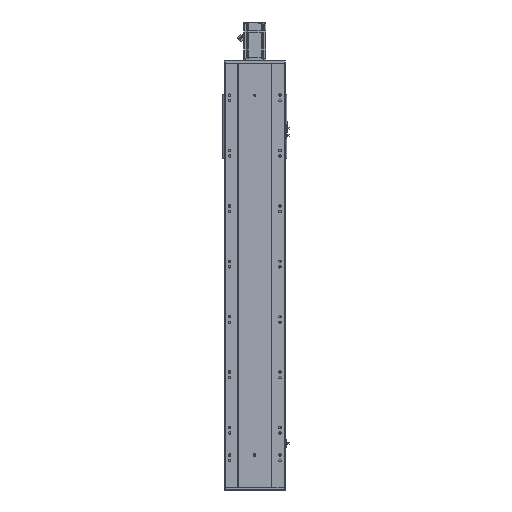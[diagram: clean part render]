
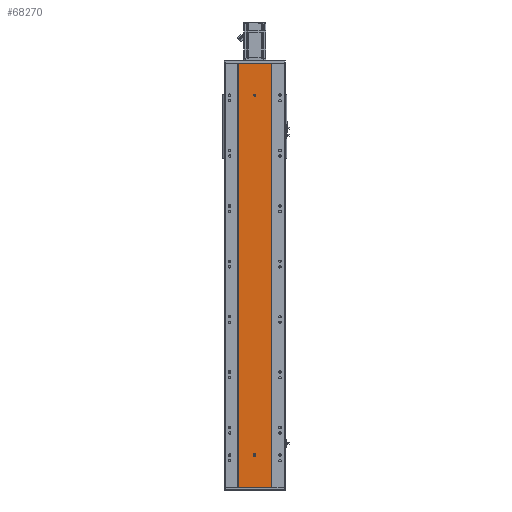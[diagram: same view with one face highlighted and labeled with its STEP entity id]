
A CAD part, front view. The second image highlights one B-rep face of the part: STEP entity #68270.
In plain terms, the highlighted planar face has unit normal (0, -1, 0).
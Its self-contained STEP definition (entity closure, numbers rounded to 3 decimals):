
#1068 = EDGE_CURVE ( 'NONE', #60891, #67208, #69013, .T. ) ;
#1090 = ORIENTED_EDGE ( 'NONE', *, *, #65843, .F. ) ;
#1938 = CARTESIAN_POINT ( 'NONE',  ( 0., 0., 1414. ) ) ;
#2740 = DIRECTION ( 'NONE',  ( 1., 0., 0. ) ) ;
#3267 = DIRECTION ( 'NONE',  ( 0., 0., -1. ) ) ;
#3515 = CARTESIAN_POINT ( 'NONE',  ( -60., 0., 0. ) ) ;
#3520 = DIRECTION ( 'NONE',  ( 0., -1., 0. ) ) ;
#3709 = DIRECTION ( 'NONE',  ( 0., 0., -1. ) ) ;
#4492 = CARTESIAN_POINT ( 'NONE',  ( 4., 0., 119.5 ) ) ;
#4496 = LINE ( 'NONE', #25217, #60192 ) ;
#5769 = LINE ( 'NONE', #69742, #65095 ) ;
#6577 = FACE_BOUND ( 'NONE', #44715, .T. ) ;
#6674 = ORIENTED_EDGE ( 'NONE', *, *, #23832, .F. ) ;
#6789 = CIRCLE ( 'NONE', #48183, 4. ) ;
#7080 = VECTOR ( 'NONE', #14265, 1000. ) ;
#8260 = CARTESIAN_POINT ( 'NONE',  ( -60., 0., 1532. ) ) ;
#8543 = CARTESIAN_POINT ( 'NONE',  ( 0., 0., 116.5 ) ) ;
#9874 = LINE ( 'NONE', #67673, #18845 ) ;
#12336 = CARTESIAN_POINT ( 'NONE',  ( -60., 0., 0. ) ) ;
#12761 = VERTEX_POINT ( 'NONE', #13666 ) ;
#12876 = VERTEX_POINT ( 'NONE', #16606 ) ;
#13434 = CARTESIAN_POINT ( 'NONE',  ( 0., 0., 112.5 ) ) ;
#13552 = CARTESIAN_POINT ( 'NONE',  ( 60., 0., 0. ) ) ;
#13666 = CARTESIAN_POINT ( 'NONE',  ( 4., 0., 116.5 ) ) ;
#14110 = VECTOR ( 'NONE', #34453, 1000. ) ;
#14265 = DIRECTION ( 'NONE',  ( 0., 0., -1. ) ) ;
#14728 = DIRECTION ( 'NONE',  ( 0., -1., 0. ) ) ;
#15159 = CARTESIAN_POINT ( 'NONE',  ( 60., 0., 1532. ) ) ;
#15572 = FACE_BOUND ( 'NONE', #57445, .T. ) ;
#16371 = ORIENTED_EDGE ( 'NONE', *, *, #46055, .F. ) ;
#16606 = CARTESIAN_POINT ( 'NONE',  ( -4., 0., 119.5 ) ) ;
#17415 = CARTESIAN_POINT ( 'NONE',  ( -60., 0., 1532. ) ) ;
#18179 = ORIENTED_EDGE ( 'NONE', *, *, #31088, .F. ) ;
#18251 = LINE ( 'NONE', #8260, #20945 ) ;
#18845 = VECTOR ( 'NONE', #56109, 1000. ) ;
#20945 = VECTOR ( 'NONE', #2740, 1000. ) ;
#21543 = EDGE_CURVE ( 'NONE', #61827, #67721, #18251, .T. ) ;
#22821 = DIRECTION ( 'NONE',  ( 0., 1., 0. ) ) ;
#23362 = ORIENTED_EDGE ( 'NONE', *, *, #45087, .F. ) ;
#23654 = ORIENTED_EDGE ( 'NONE', *, *, #61059, .F. ) ;
#23832 = EDGE_CURVE ( 'NONE', #12761, #35246, #9874, .T. ) ;
#24718 = VERTEX_POINT ( 'NONE', #1938 ) ;
#25217 = CARTESIAN_POINT ( 'NONE',  ( 60., 0., 1532. ) ) ;
#25590 = ORIENTED_EDGE ( 'NONE', *, *, #28388, .T. ) ;
#26174 = AXIS2_PLACEMENT_3D ( 'NONE', #43220, #3520, #3267 ) ;
#26281 = CARTESIAN_POINT ( 'NONE',  ( 0., 0., 1418. ) ) ;
#27392 = ORIENTED_EDGE ( 'NONE', *, *, #37205, .F. ) ;
#28388 = EDGE_CURVE ( 'NONE', #61827, #60891, #5769, .T. ) ;
#30090 = ORIENTED_EDGE ( 'NONE', *, *, #31684, .F. ) ;
#30366 = AXIS2_PLACEMENT_3D ( 'NONE', #8543, #37178, #36431 ) ;
#31088 = EDGE_CURVE ( 'NONE', #73415, #67602, #56331, .T. ) ;
#31684 = EDGE_CURVE ( 'NONE', #24718, #56460, #6789, .T. ) ;
#32624 = CARTESIAN_POINT ( 'NONE',  ( 0., 0., 119.5 ) ) ;
#32652 = DIRECTION ( 'NONE',  ( 0., 0., 1. ) ) ;
#34019 = AXIS2_PLACEMENT_3D ( 'NONE', #61543, #22821, #32652 ) ;
#34453 = DIRECTION ( 'NONE',  ( 1., 0., 0. ) ) ;
#35246 = VERTEX_POINT ( 'NONE', #4492 ) ;
#35710 = EDGE_LOOP ( 'NONE', ( #53471, #23362, #48557, #25590 ) ) ;
#36370 = CARTESIAN_POINT ( 'NONE',  ( -4., 0., 116.5 ) ) ;
#36431 = DIRECTION ( 'NONE',  ( 0., 0., -1. ) ) ;
#37178 = DIRECTION ( 'NONE',  ( 0., -1., 0. ) ) ;
#37205 = EDGE_CURVE ( 'NONE', #56460, #24718, #73618, .T. ) ;
#38445 = DIRECTION ( 'NONE',  ( 0., 0., -1. ) ) ;
#39810 = FACE_OUTER_BOUND ( 'NONE', #35710, .T. ) ;
#40328 = DIRECTION ( 'NONE',  ( 0., 0., -1. ) ) ;
#43220 = CARTESIAN_POINT ( 'NONE',  ( 0., 0., 116.5 ) ) ;
#44715 = EDGE_LOOP ( 'NONE', ( #30090, #27392 ) ) ;
#45087 = EDGE_CURVE ( 'NONE', #67721, #67208, #4496, .T. ) ;
#45707 = CARTESIAN_POINT ( 'NONE',  ( 0., 0., 1422. ) ) ;
#46055 = EDGE_CURVE ( 'NONE', #12876, #73415, #61857, .T. ) ;
#48183 = AXIS2_PLACEMENT_3D ( 'NONE', #26281, #14728, #3709 ) ;
#48557 = ORIENTED_EDGE ( 'NONE', *, *, #21543, .F. ) ;
#51513 = AXIS2_PLACEMENT_3D ( 'NONE', #32624, #72894, #38445 ) ;
#51860 = AXIS2_PLACEMENT_3D ( 'NONE', #73784, #62407, #62156 ) ;
#53471 = ORIENTED_EDGE ( 'NONE', *, *, #1068, .T. ) ;
#54390 = DIRECTION ( 'NONE',  ( 0., 0., -1. ) ) ;
#56109 = DIRECTION ( 'NONE',  ( 0., 0., 1. ) ) ;
#56331 = CIRCLE ( 'NONE', #30366, 4. ) ;
#56460 = VERTEX_POINT ( 'NONE', #45707 ) ;
#57259 = PLANE ( 'NONE',  #34019 ) ;
#57445 = EDGE_LOOP ( 'NONE', ( #6674, #1090, #18179, #16371, #23654 ) ) ;
#59088 = CIRCLE ( 'NONE', #26174, 4. ) ;
#60192 = VECTOR ( 'NONE', #54390, 1000. ) ;
#60891 = VERTEX_POINT ( 'NONE', #3515 ) ;
#61059 = EDGE_CURVE ( 'NONE', #35246, #12876, #63279, .T. ) ;
#61543 = CARTESIAN_POINT ( 'NONE',  ( -60., 0., 1532. ) ) ;
#61827 = VERTEX_POINT ( 'NONE', #17415 ) ;
#61857 = LINE ( 'NONE', #71865, #7080 ) ;
#62156 = DIRECTION ( 'NONE',  ( 0., 0., -1. ) ) ;
#62407 = DIRECTION ( 'NONE',  ( 0., -1., 0. ) ) ;
#63279 = CIRCLE ( 'NONE', #51513, 4. ) ;
#65095 = VECTOR ( 'NONE', #40328, 1000. ) ;
#65843 = EDGE_CURVE ( 'NONE', #67602, #12761, #59088, .T. ) ;
#67208 = VERTEX_POINT ( 'NONE', #13552 ) ;
#67602 = VERTEX_POINT ( 'NONE', #13434 ) ;
#67673 = CARTESIAN_POINT ( 'NONE',  ( 4., 0., 116.5 ) ) ;
#67721 = VERTEX_POINT ( 'NONE', #15159 ) ;
#68270 = ADVANCED_FACE ( 'NONE', ( #6577, #15572, #39810 ), #57259, .F. ) ;
#69013 = LINE ( 'NONE', #12336, #14110 ) ;
#69742 = CARTESIAN_POINT ( 'NONE',  ( -60., 0., 1532. ) ) ;
#71865 = CARTESIAN_POINT ( 'NONE',  ( -4., 0., 116.5 ) ) ;
#72894 = DIRECTION ( 'NONE',  ( 0., -1., 0. ) ) ;
#73415 = VERTEX_POINT ( 'NONE', #36370 ) ;
#73618 = CIRCLE ( 'NONE', #51860, 4. ) ;
#73784 = CARTESIAN_POINT ( 'NONE',  ( 0., 0., 1418. ) ) ;
